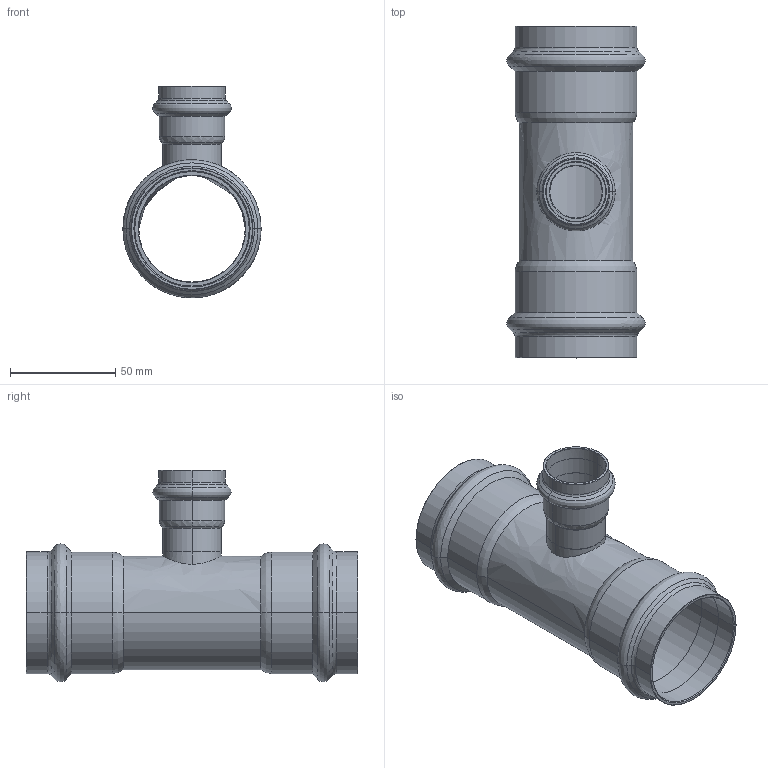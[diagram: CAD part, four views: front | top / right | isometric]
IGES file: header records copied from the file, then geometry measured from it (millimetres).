
Start section: Elysium IGES Interface
Global section: file name: C:\3d modellen sudo\C-Pr VP\SP8130RV\8130RVW542854.igs; native system: CoCreate Modeling 17.00A  17-Jun-2010; preprocessor: CoCreate IGES_3D V2.2; author: Unknown; organization: Unknown; date: 20130131.144614; units: millimetre
Bounding box: 65.68 x 157.73 x 100.67 mm (x, y, z)
Volume: 63315.1 mm3; surface area: 64716.7 mm2
Topology: 1 solids, 1 shells, 128 faces, 264 edges, 146 vertices
Faces by surface type: bspline 128
